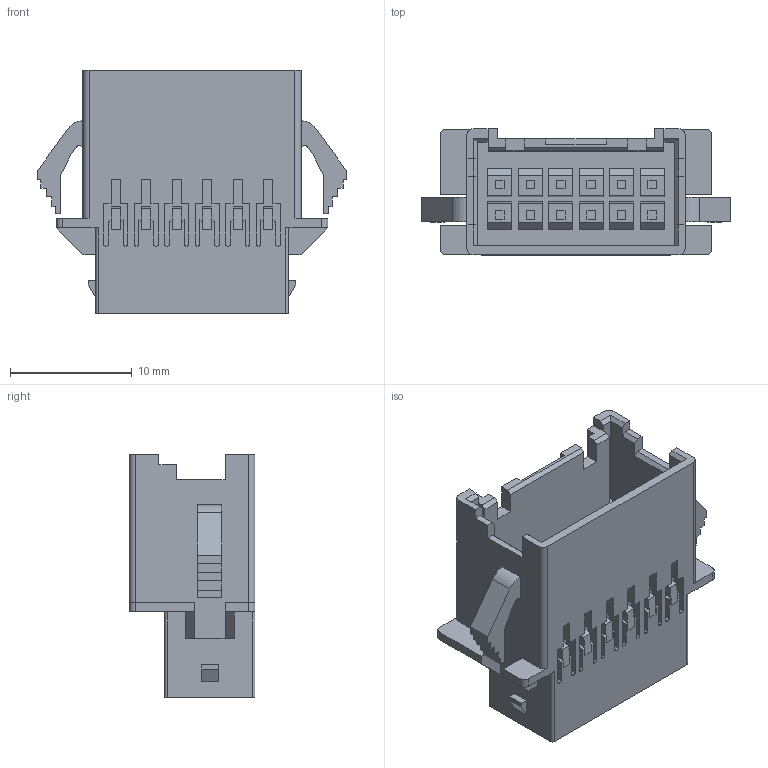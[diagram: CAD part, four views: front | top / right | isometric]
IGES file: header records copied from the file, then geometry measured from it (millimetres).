
Start section:  PTC IGES file: c-1-1969594-2-a-3d.igs
Global section: file name: c-1-1969594-2-a-3d.igs; native system: Creo Parametric by PTC Inc.; preprocessor: 2015200; author: workeradm; organization: Unknown; units: millimetre
Bounding box: 25.39 x 10.32 x 19.97 mm (x, y, z)
Surface area: 2432.1 mm2 (no closed solid volume)
Topology: 0 solids, 0 shells, 698 faces, 3780 edges, 3780 vertices
Faces by surface type: bspline 634, revolution 64
